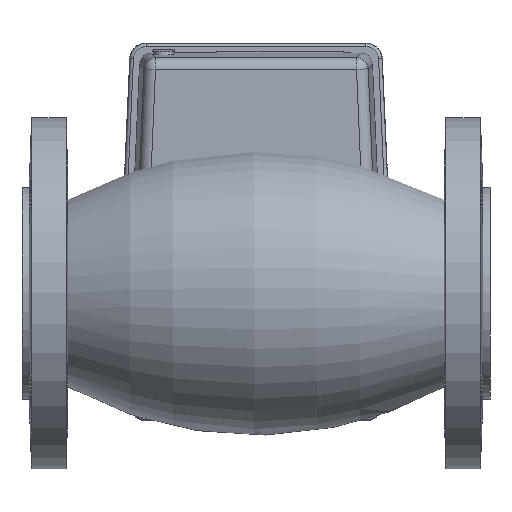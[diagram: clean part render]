
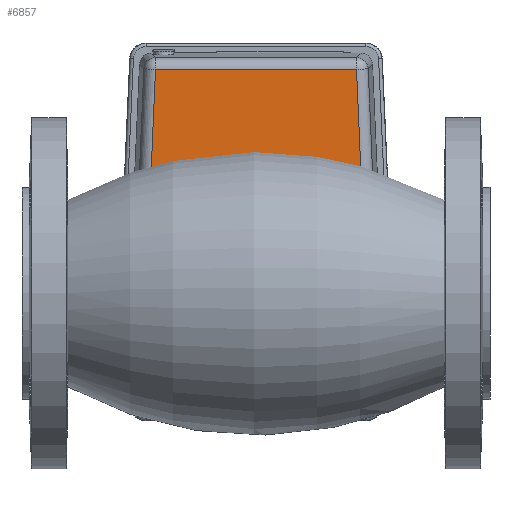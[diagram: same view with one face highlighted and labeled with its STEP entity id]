
A CAD part, front view. The second image highlights one B-rep face of the part: STEP entity #6857.
In plain terms, the highlighted planar face has unit normal (0, -1, 0).
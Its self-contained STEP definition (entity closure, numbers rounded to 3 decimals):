
#289=LINE('',#10298,#620);
#290=LINE('',#10302,#621);
#291=LINE('',#10306,#622);
#620=VECTOR('',#8429,1000.);
#621=VECTOR('',#8432,1000.);
#622=VECTOR('',#8435,1000.);
#837=PLANE('',#7322);
#1112=CIRCLE('',#7249,25.358);
#1141=CIRCLE('',#7323,1090.687);
#1142=CIRCLE('',#7324,163.687);
#1143=CIRCLE('',#7325,1090.687);
#1999=ORIENTED_EDGE('',*,*,#3025,.F.);
#2000=ORIENTED_EDGE('',*,*,#3026,.T.);
#2001=ORIENTED_EDGE('',*,*,#3027,.F.);
#2002=ORIENTED_EDGE('',*,*,#3028,.T.);
#2003=ORIENTED_EDGE('',*,*,#3029,.F.);
#2004=ORIENTED_EDGE('',*,*,#3030,.T.);
#2005=ORIENTED_EDGE('',*,*,#2927,.T.);
#2927=EDGE_CURVE('',#3534,#3534,#1112,.T.);
#3025=EDGE_CURVE('',#3594,#3595,#1141,.T.);
#3026=EDGE_CURVE('',#3594,#3596,#289,.T.);
#3027=EDGE_CURVE('',#3597,#3596,#1142,.T.);
#3028=EDGE_CURVE('',#3597,#3598,#290,.T.);
#3029=EDGE_CURVE('',#3599,#3598,#1143,.T.);
#3030=EDGE_CURVE('',#3599,#3595,#291,.T.);
#3534=VERTEX_POINT('',#10095);
#3594=VERTEX_POINT('',#10296);
#3595=VERTEX_POINT('',#10297);
#3596=VERTEX_POINT('',#10299);
#3597=VERTEX_POINT('',#10301);
#3598=VERTEX_POINT('',#10303);
#3599=VERTEX_POINT('',#10305);
#4040=EDGE_LOOP('',(#1999,#2000,#2001,#2002,#2003,#2004));
#4041=EDGE_LOOP('',(#2005));
#4433=FACE_BOUND('',#4040,.T.);
#4434=FACE_BOUND('',#4041,.T.);
#6857=ADVANCED_FACE('',(#4433,#4434),#837,.F.);
#7249=AXIS2_PLACEMENT_3D('',#10094,#8212,#8213);
#7322=AXIS2_PLACEMENT_3D('',#10294,#8425,#8426);
#7323=AXIS2_PLACEMENT_3D('',#10295,#8427,#8428);
#7324=AXIS2_PLACEMENT_3D('',#10300,#8430,#8431);
#7325=AXIS2_PLACEMENT_3D('',#10304,#8433,#8434);
#8212=DIRECTION('',(0.,1.,0.));
#8213=DIRECTION('',(0.,0.,1.));
#8425=DIRECTION('',(0.,1.,0.));
#8426=DIRECTION('',(0.,0.,1.));
#8427=DIRECTION('',(0.,1.,0.));
#8428=DIRECTION('',(0.,0.,1.));
#8429=DIRECTION('',(1.,0.,0.));
#8430=DIRECTION('',(0.,1.,0.));
#8431=DIRECTION('',(0.,0.,1.));
#8432=DIRECTION('',(1.,0.,0.));
#8433=DIRECTION('',(0.,1.,0.));
#8434=DIRECTION('',(0.,0.,1.));
#8435=DIRECTION('',(-1.,0.,0.));
#10094=CARTESIAN_POINT('',(0.,231.5,0.));
#10095=CARTESIAN_POINT('',(0.,231.5,25.358));
#10294=CARTESIAN_POINT('',(1045.513,231.5,26.246));
#10295=CARTESIAN_POINT('',(1045.513,231.5,26.246));
#10296=CARTESIAN_POINT('',(-42.961,231.5,-43.195));
#10297=CARTESIAN_POINT('',(-42.961,231.5,95.687));
#10298=CARTESIAN_POINT('',(1045.513,231.5,-43.195));
#10299=CARTESIAN_POINT('',(-33.454,231.5,-43.195));
#10300=CARTESIAN_POINT('',(0.,231.5,117.037));
#10301=CARTESIAN_POINT('',(33.454,231.5,-43.195));
#10302=CARTESIAN_POINT('',(1045.513,231.5,-43.195));
#10303=CARTESIAN_POINT('',(42.961,231.5,-43.195));
#10304=CARTESIAN_POINT('',(-1045.513,231.5,26.246));
#10305=CARTESIAN_POINT('',(42.961,231.5,95.687));
#10306=CARTESIAN_POINT('',(1045.513,231.5,95.687));
